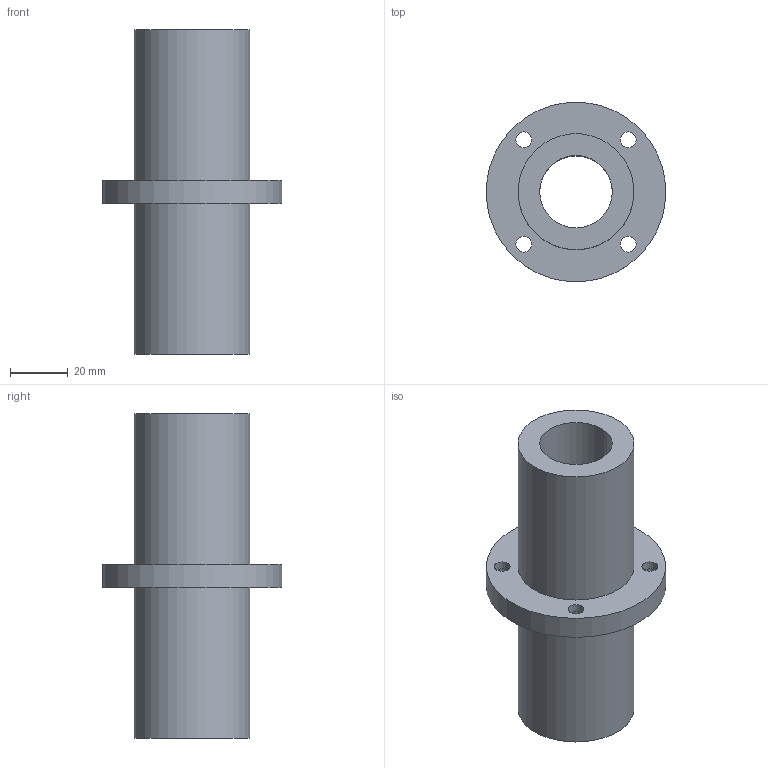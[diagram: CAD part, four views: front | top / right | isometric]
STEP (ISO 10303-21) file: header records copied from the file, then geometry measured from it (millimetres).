
FILE_DESCRIPTION(/* description */ (''),/* implementation_level */ '2;1');
FILE_NAME(/* name */ 'LMFM25LUU',/* time_stamp */ '2019-07-03T11:01:06+02:00',/* author */ ('VĂ©gh MĂˇtĂ©'),/* organization */ ('Bearing Kft'),/* preprocessor_version */ 'ST-DEVELOPER v16.7',/* originating_system */ 'DEX',/* authorisation */ $);
FILE_SCHEMA (('AUTOMOTIVE_DESIGN {1 0 10303 214 3 1 1}'));
Length unit declared in the file: millimetre
Products named in the file (1): LMFM25LUU
Bounding box: 61.76 x 61.76 x 112 mm (x, y, z)
Volume: 98287 mm3; surface area: 29093.9 mm2
Topology: 1 solids, 1 shells, 344 faces, 871 edges, 582 vertices
Faces by surface type: plane 271, bspline 59, cylinder 14
Full cylindrical faces by diameter (mm): 5.5 x4, 9 x4, 25 x1, 40 x2, 62 x1
Entity records: 13112 total; most frequent: CARTESIAN_POINT 5198, ORIENTED_EDGE 1708, DIRECTION 1336, EDGE_CURVE 854, LINE 708, VECTOR 708, VERTEX_POINT 578, EDGE_LOOP 420
